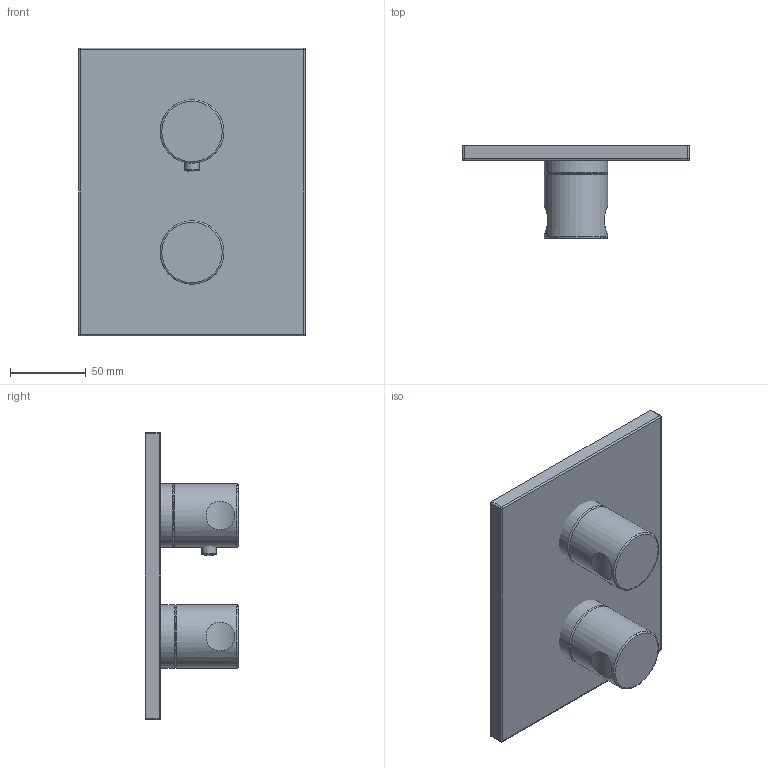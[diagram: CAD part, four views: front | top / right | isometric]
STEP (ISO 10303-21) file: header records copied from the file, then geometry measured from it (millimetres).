
FILE_DESCRIPTION(/* description */ (''),/* implementation_level */ '2;1');
FILE_NAME(/* name */ 'TVD00065300061_asm.step',/* time_stamp */ '2022-12-06T15:38:47+01:00',/* author */ (''),/* organization */ (''),/* preprocessor_version */ 'ST-DEVELOPER v19.2',/* originating_system */ 'Autodesk Translation Framework v11.17.0.187',/* authorisation */ '');
FILE_SCHEMA (('AUTOMOTIVE_DESIGN { 1 0 10303 214 3 1 1 }'));
Length unit declared in the file: millimetre
Products named in the file (43): (Nicht gespeichert); 80TN6300M; J60206; 8YG68009; 8XT24305; 81T6311; 84T68009; 8TH68009; 8PD12X8X08; 81P20EV62; JB6311SD00; 80TN6211G; 8XJ222X128X6; 80TN6311; 81P20PV83; 8RM4X25; 83P24JW33; 80P20EV62; 8EM5X5; 80N16494; 82P24J63; 8TH67R87; 82P24J52; 8MB618306_ASM; 80W618306; 80W14418; 8J487X35A; 85TN6300G; 8J22X2A; 8J18X2A; 86TN6300; J92030DM; 81T23187G; 8J128X18A; 104F680HY; 8AM6X8; 86BN0000; 8XJBN003; 8PM5X50; 8XJBN004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
Assembly tree (63 placements, depth 3):
  (Nicht gespeichert)
    80TN6300M
    J60206
    8YG68009
    8XT24305
    81T6311
    84T68009
    8TH68009
    8PD12X8X08
    81P20PV83  x2
    81P20EV62
    JB6311SD00
    80TN6211G
    8XJ222X128X6
    80TN6311
    8RM4X25
    83P24JW33
    80P20EV62
    8EM5X5  x2
    80N16494  x2
    82P24J63
    8TH67R87
    82P24J52
    8MB618306_ASM
      80W618306
      80W14418  x2
    8J487X35A  x2
    85TN6300G  x2
    8J22X2A  x2
    8J18X2A  x4
    86TN6300  x2
    J92030DM  x2
    81T23187G  x2
    8J128X18A  x2
    8J171X24A  x4
    8XJBN004  x2
    104F680HY
    8AM6X8
    86BN0000
    8XJBN003
    8PM5X50  x4
    8BS25
    8BS40X112
Bounding box: 150 x 61.5 x 190 mm (x, y, z)
Volume: 452966.5 mm3; surface area: 91088.5 mm2
Topology: 6 solids, 6 shells, 51 faces, 98 edges, 62 vertices
Faces by surface type: plane 21, cylinder 19, torus 6, sphere 5
Full cylindrical faces by diameter (mm): 9.5 x1, 32 x1, 34 x1, 42 x4
Entity records: 2967 total; most frequent: CARTESIAN_POINT 516, DIRECTION 459, AXIS2_PLACEMENT_3D 211, ORIENTED_EDGE 194, PRODUCT_DEFINITION_SHAPE 106, EDGE_CURVE 97, DERIVED_UNIT_ELEMENT 82, PROPERTY_DEFINITION_REPRESENTATION 82
